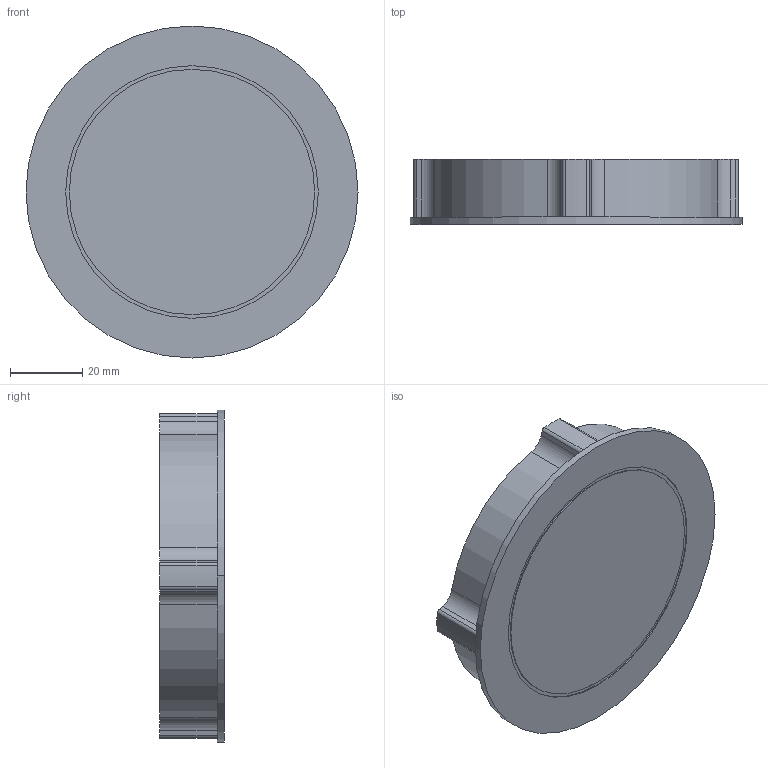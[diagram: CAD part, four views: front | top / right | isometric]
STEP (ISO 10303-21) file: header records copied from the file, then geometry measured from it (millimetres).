
FILE_DESCRIPTION( ( '' ), '1' );
FILE_NAME( 'C:/Documents and Settings/Nikhil/Desktop/Nik/Done/9086690.stp', '2013-10-23T07:45:56', ( '' ), ( '' ), ' ', ' ', ' ' );
FILE_SCHEMA( ( 'automotive_design' ) );
Length unit declared in the file: millimetre
Products named in the file (1): 1
Bounding box: 92 x 18 x 92 mm (x, y, z)
Volume: 96385 mm3; surface area: 18644.7 mm2
Topology: 1 solids, 1 shells, 49 faces, 126 edges, 84 vertices
Faces by surface type: cylinder 34, plane 15
Entity records: 2994 total; most frequent: DIRECTION 294, STYLED_ITEM 260, PRESENTATION_STYLE_ASSIGNMENT 260, CARTESIAN_POINT 260, COLOUR_RGB 260, ORIENTED_EDGE 252, EDGE_CURVE 126, CURVE_STYLE 126
